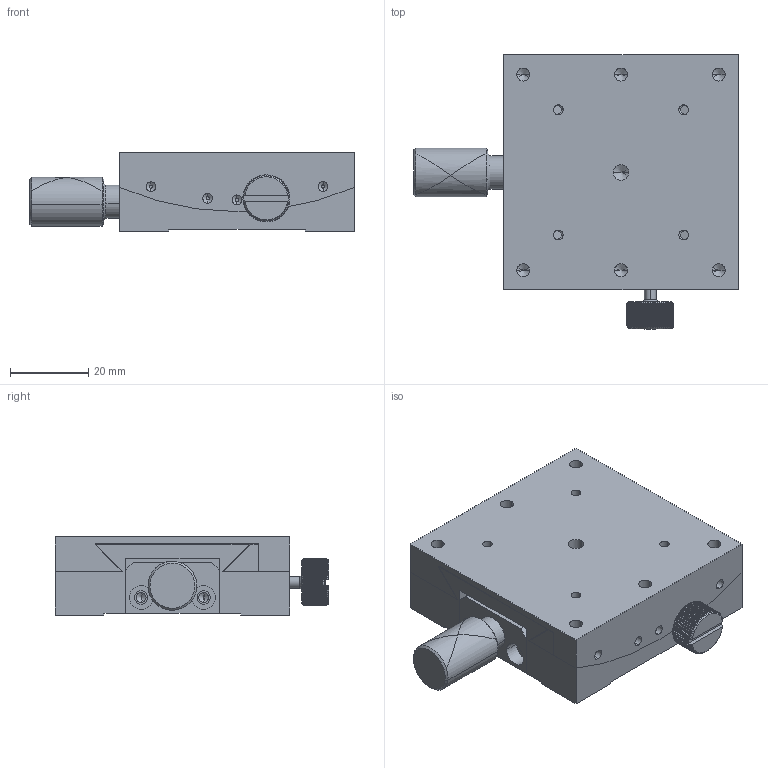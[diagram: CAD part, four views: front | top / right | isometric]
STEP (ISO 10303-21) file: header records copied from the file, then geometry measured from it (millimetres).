
FILE_DESCRIPTION (( 'STEP AP203' ), '1' );
FILE_NAME ('PT-SD319×°Åä.STEP', '2025-03-31T07:03:21', ( '' ), ( '' ), 'SwSTEP 2.0', 'SolidWorks 2023', '' );
FILE_SCHEMA (( 'CONFIG_CONTROL_DESIGN' ));
Length unit declared in the file: millimetre
Products named in the file (7): PT-SD319(下板) ; PT-SD319(下板滑轨); PT-SD319(端盖); 锁紧螺母; PT-SD319(面板); 旋钮; PT-SD319装配
Assembly tree (7 placements, depth 2):
  PT-SD319装配
    PT-SD319(下板) 
    PT-SD319(下板滑轨)
    PT-SD319(面板)
    PT-SD319(端盖)  x2
    旋钮
    锁紧螺母
Bounding box: 83 x 70 x 20 mm (x, y, z)
Volume: 71363.4 mm3; surface area: 30278.7 mm2
Topology: 7 solids, 7 shells, 474 faces, 1314 edges, 850 vertices
Faces by surface type: cylinder 229, plane 185, cone 51, bspline 9
Entity records: 18611 total; most frequent: CARTESIAN_POINT 6875, ORIENTED_EDGE 2488, DIRECTION 2015, EDGE_CURVE 1244, VERTEX_POINT 818, AXIS2_PLACEMENT_3D 752, VECTOR 511, LINE 511
